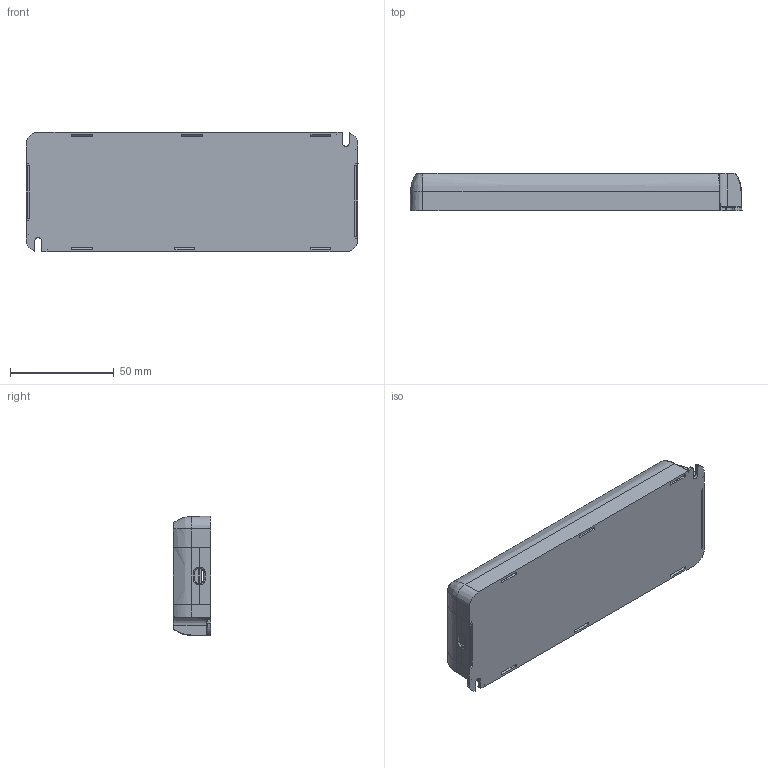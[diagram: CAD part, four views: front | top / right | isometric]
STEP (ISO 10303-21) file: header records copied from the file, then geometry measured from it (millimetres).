
FILE_DESCRIPTION(/* description */ (''),/* implementation_level */ '2;1');
FILE_NAME(/* name */ 'SS60-48VF 016019.stp',/* time_stamp */ '2024-09-02T13:22:42+08:00',/* author */ (''),/* organization */ (''),/* preprocessor_version */ 'ST-DEVELOPER v16',/* originating_system */ 'SIEMENS PLM Software NX 10.0',/* authorisation */ '');
FILE_SCHEMA (('CONFIG_CONTROL_DESIGN'));
Length unit declared in the file: millimetre
Products named in the file (1): 111111_x_t
Bounding box: 159.88 x 18 x 57.78 mm (x, y, z)
Volume: 36664.4 mm3; surface area: 58923.6 mm2
Topology: 3 solids, 7 shells, 968 faces, 2697 edges, 1738 vertices
Faces by surface type: plane 641, cylinder 185, bspline 55, torus 38, cone 28, sphere 18, extrusion 3
Full cylindrical faces by diameter (mm): 2.6 x4, 5.5 x4
Entity records: 33415 total; most frequent: CARTESIAN_POINT 8850, ORIENTED_EDGE 5322, DIRECTION 4824, EDGE_CURVE 2661, VECTOR 1872, LINE 1869, VERTEX_POINT 1722, AXIS2_PLACEMENT_3D 1476
